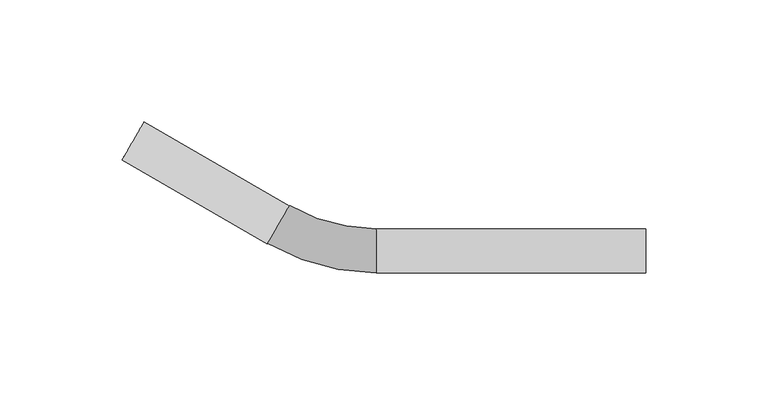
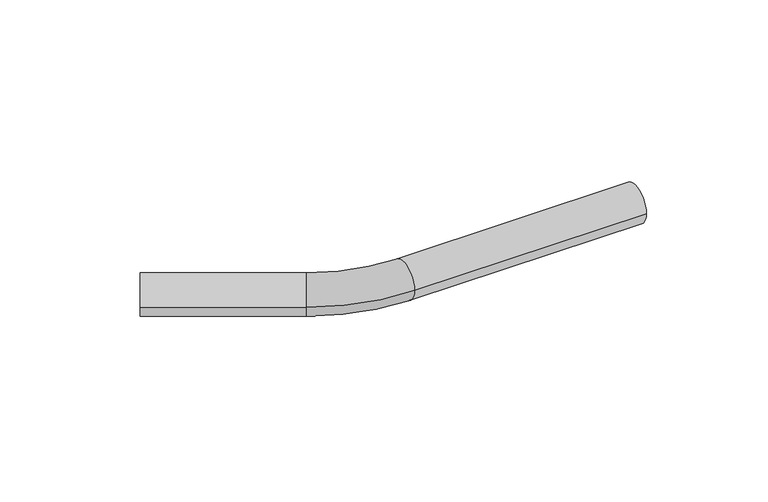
"""IFC4 building model written with IfcOpenShell, lengths in millimetres: pipe fitting geometry, VALTEC_VTi.955.I_Отвод безраструбный_нержавеющая : VTi.955.I."""

from ifc_helpers import new_model, si_unit, point, frame, origin, origin_2d, place, context, project, spatial, circle_curve, ellipse_curve, trimmed, segment, composite_curve, outline, extrude, source, transform, mapped, element, save
from ifc_brep_helpers import plane_surface, revolved_surface, advanced_brep


def pipe_fitting_c12cff8b(model_context):
    return source(origin(), model_context, "Body", "SolidModel", [
        advanced_brep(
        [(21.6, -9.0, 0.0), (21.6, 9.0, 0.0), (-22.9, 2.9237391, 0.0), (-13.9, 18.5121963, 0.0)],
        [
            (0, 1, circle_curve(frame((21.6, 0.0, 0.0), z_axis=(1.0, 0.0, 0.0), x_axis=(0.0, 1.0, 0.0)), 9.0)),
            (1, 0, circle_curve(frame((21.6, 0.0, 0.0), z_axis=(1.0, 0.0, 0.0), x_axis=(0.0, 1.0, 0.0)), 9.0)),
            (2, 3, circle_curve(frame((-18.4, 10.7179677, 0.0), z_axis=(-0.8660254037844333, 0.5000000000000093, 0.0), x_axis=(0.5000000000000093, 0.8660254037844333, 0.0)), 9.0)),
            (3, 2, circle_curve(frame((-18.4, 10.7179677, 0.0), z_axis=(-0.8660254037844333, 0.5000000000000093, 0.0), x_axis=(0.5000000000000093, 0.8660254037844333, 0.0)), 9.0)),
            (2, 0, circle_curve(frame((21.6, 80.0, 0.0), z_axis=(0.0, 0.0, 1.0), x_axis=(0.0, -1.0, 0.0)), 89.0)),
            (1, 3, circle_curve(frame((21.6, 80.0, 0.0), z_axis=(0.0, 0.0, -1.0), x_axis=(0.0, -1.0, 0.0)), 71.0)),
        ],
        [
            plane_surface(frame((21.6, 0.0, 0.0), z_axis=(1.0, 0.0, 0.0), x_axis=(0.0, 0.0, 1.0))),
            plane_surface(frame((-18.4, 10.7179677, 0.0), z_axis=(-0.8660254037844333, 0.5000000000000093, 0.0), x_axis=(0.0, 0.0, 1.0))),
            revolved_surface(trimmed(ellipse_curve(frame((21.6, 0.0, 0.0), z_axis=(-1.0, 0.0, 0.0), x_axis=(0.0, 1.0, 0.0)), 9.0, 9.0), [point((21.6, -9.0, 0.0))], [point((21.6, 9.0, 0.0))], True, "CARTESIAN"), (21.6, 80.0, 0.0), (0.0, 0.0, 1.0)),
            revolved_surface(trimmed(ellipse_curve(frame((21.6, 0.0, 0.0), z_axis=(-1.0, 0.0, 0.0), x_axis=(0.0, 1.0, 0.0)), 9.0, 9.0), [point((21.6, 9.0, 0.0))], [point((21.6, -9.0, 0.0))], True, "CARTESIAN"), (21.6, 80.0, 0.0), (0.0, 0.0, 1.0)),
        ],
        [
            (0, [[1, 2]]),
            (1, [[3, 4]]),
            (2, [[-3, 5, -2, 6]]),
            (3, [[-4, -6, -1, -5]]),
        ],
    ),
        extrude(outline(composite_curve([segment(trimmed(circle_curve(origin_2d(), 9.0), [point((0.0, 9.0))], [point((0.0, -9.0))], False, "CARTESIAN"), True, "CONTINUOUS"), segment(trimmed(circle_curve(origin_2d(), 9.0), [point((0.0, -9.0))], [point((0.0, 9.0))], False, "CARTESIAN"), True, "CONTINUOUS")], self_intersect=False)), frame((-18.4463411, 10.65, 0.0), z_axis=(-0.8660254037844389, 0.4999999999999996, 0.0), x_axis=(0.0, 0.0, 1.0)), (0.0, 0.0, 1.0), 68.7),
        extrude(outline(composite_curve([segment(trimmed(circle_curve(origin_2d(), 9.0), [point((9.0, 0.0))], [point((-9.0, 0.0))], False, "CARTESIAN"), True, "CONTINUOUS"), segment(trimmed(circle_curve(origin_2d(), 9.0), [point((-9.0, 0.0))], [point((9.0, 0.0))], False, "CARTESIAN"), True, "CONTINUOUS")], self_intersect=False)), frame((21.6, 0.0, 0.0), z_axis=(1.0, 0.0, 0.0), x_axis=(0.0, 1.0, 0.0)), (0.0, 0.0, 1.0), 110.4),
    ])


if __name__ == "__main__":
    model = new_model("IFC4")
    model_context = context("Model", 3, world=origin())
    ifc_project = project(units=[si_unit("LENGTHUNIT", "METRE", prefix="MILLI")], contexts=[model_context])
    site = spatial("IfcSite", under=ifc_project)
    building = spatial("IfcBuilding", under=site)
    placement = place(None, origin())
    pipe_fitting_shape = pipe_fitting_c12cff8b(model_context)
    element("IfcPipeFitting", 1, ObjectType="VALTEC_VTi.955.I_Отвод безраструбный_нержавеющая : VTi.955.I", at=placement, inside=building, context=model_context, shape_type="MappedRepresentation", body=[
        mapped(pipe_fitting_shape, transform((0.0, 0.0, 0.0), x_axis=(1.0, 0.0, 0.0), y_axis=(0.0, 1.0, 0.0), z_axis=(0.0, 0.0, 1.0))),
    ])
    save(model, "model.ifc")
